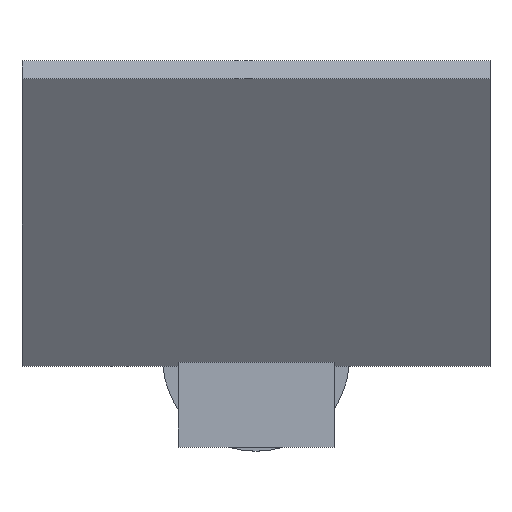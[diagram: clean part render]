
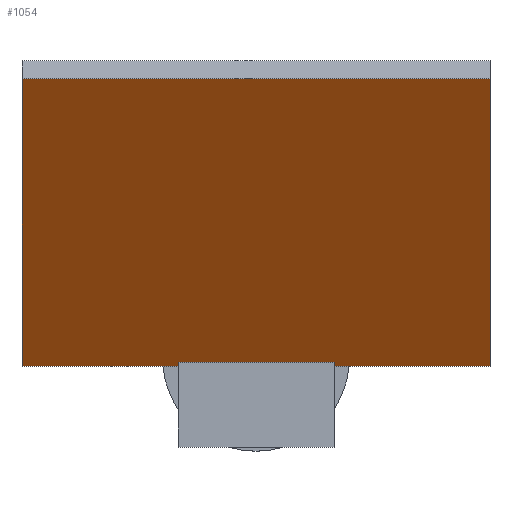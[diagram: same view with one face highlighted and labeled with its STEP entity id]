
A CAD part, top view. The second image highlights one B-rep face of the part: STEP entity #1054.
In plain terms, the highlighted planar face has unit normal (0, -0.574, 0.819).
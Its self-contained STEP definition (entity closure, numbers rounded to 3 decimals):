
#127 = PLANE('',#128);
#128 = AXIS2_PLACEMENT_3D('',#129,#130,#131);
#129 = CARTESIAN_POINT('',(-295.,-49.751,-8.));
#130 = DIRECTION('',(1.,0.,0.));
#131 = DIRECTION('',(0.,0.,1.));
#183 = PLANE('',#184);
#184 = AXIS2_PLACEMENT_3D('',#185,#186,#187);
#185 = CARTESIAN_POINT('',(-255.,-49.751,-8.));
#186 = DIRECTION('',(1.,0.,0.));
#187 = DIRECTION('',(0.,0.,1.));
#234 = VERTEX_POINT('',#235);
#235 = CARTESIAN_POINT('',(-295.,-28.012,29.115));
#249 = PLANE('',#250);
#250 = AXIS2_PLACEMENT_3D('',#251,#252,#253);
#251 = CARTESIAN_POINT('',(-295.,-49.751,29.115));
#252 = DIRECTION('',(0.,0.,1.));
#253 = DIRECTION('',(1.,0.,0.));
#361 = VERTEX_POINT('',#362);
#362 = CARTESIAN_POINT('',(-295.,-29.046,28.391));
#375 = PLANE('',#376);
#376 = AXIS2_PLACEMENT_3D('',#377,#378,#379);
#377 = CARTESIAN_POINT('',(-335.,-24.457,21.838));
#378 = DIRECTION('',(0.,0.819,0.574));
#379 = DIRECTION('',(0.,-0.574,0.819));
#386 = EDGE_CURVE('',#361,#234,#387,.T.);
#387 = SURFACE_CURVE('',#388,(#392,#398),.PCURVE_S1.);
#388 = LINE('',#389,#390);
#389 = CARTESIAN_POINT('',(-295.,-44.542,17.541));
#390 = VECTOR('',#391,1.);
#391 = DIRECTION('',(-0.,0.819,0.574));
#392 = PCURVE('',#127,#393);
#393 = DEFINITIONAL_REPRESENTATION('',(#394),#397);
#394 = B_SPLINE_CURVE_WITH_KNOTS('',1,(#395,#396),.UNSPECIFIED.,.F.,.F.,
  (2,2),(18.917,20.178),.PIECEWISE_BEZIER_KNOTS.);
#395 = CARTESIAN_POINT('',(36.391,-20.706));
#396 = CARTESIAN_POINT('',(37.115,-21.739));
#397 = ( GEOMETRIC_REPRESENTATION_CONTEXT(2) 
PARAMETRIC_REPRESENTATION_CONTEXT() REPRESENTATION_CONTEXT('2D SPACE',''
  ) );
#398 = PCURVE('',#399,#404);
#399 = PLANE('',#400);
#400 = AXIS2_PLACEMENT_3D('',#401,#402,#403);
#401 = CARTESIAN_POINT('',(-335.,-29.046,28.391));
#402 = DIRECTION('',(0.,-0.574,0.819));
#403 = DIRECTION('',(1.,0.,0.));
#404 = DEFINITIONAL_REPRESENTATION('',(#405),#408);
#405 = B_SPLINE_CURVE_WITH_KNOTS('',1,(#406,#407),.UNSPECIFIED.,.F.,.F.,
  (2,2),(18.917,20.178),.PIECEWISE_BEZIER_KNOTS.);
#406 = CARTESIAN_POINT('',(40.,0.));
#407 = CARTESIAN_POINT('',(40.,1.261));
#408 = ( GEOMETRIC_REPRESENTATION_CONTEXT(2) 
PARAMETRIC_REPRESENTATION_CONTEXT() REPRESENTATION_CONTEXT('2D SPACE',''
  ) );
#815 = VERTEX_POINT('',#816);
#816 = CARTESIAN_POINT('',(-255.,-28.012,29.115));
#885 = VERTEX_POINT('',#886);
#886 = CARTESIAN_POINT('',(-255.,-29.046,28.391));
#899 = PLANE('',#900);
#900 = AXIS2_PLACEMENT_3D('',#901,#902,#903);
#901 = CARTESIAN_POINT('',(-335.,-24.457,21.838));
#902 = DIRECTION('',(0.,0.819,0.574));
#903 = DIRECTION('',(0.,-0.574,0.819));
#910 = EDGE_CURVE('',#885,#815,#911,.T.);
#911 = SURFACE_CURVE('',#912,(#916,#922),.PCURVE_S1.);
#912 = LINE('',#913,#914);
#913 = CARTESIAN_POINT('',(-255.,-44.542,17.541));
#914 = VECTOR('',#915,1.);
#915 = DIRECTION('',(-0.,0.819,0.574));
#916 = PCURVE('',#183,#917);
#917 = DEFINITIONAL_REPRESENTATION('',(#918),#921);
#918 = B_SPLINE_CURVE_WITH_KNOTS('',1,(#919,#920),.UNSPECIFIED.,.F.,.F.,
  (2,2),(18.917,20.178),.PIECEWISE_BEZIER_KNOTS.);
#919 = CARTESIAN_POINT('',(36.391,-20.706));
#920 = CARTESIAN_POINT('',(37.115,-21.739));
#921 = ( GEOMETRIC_REPRESENTATION_CONTEXT(2) 
PARAMETRIC_REPRESENTATION_CONTEXT() REPRESENTATION_CONTEXT('2D SPACE',''
  ) );
#922 = PCURVE('',#399,#923);
#923 = DEFINITIONAL_REPRESENTATION('',(#924),#927);
#924 = B_SPLINE_CURVE_WITH_KNOTS('',1,(#925,#926),.UNSPECIFIED.,.F.,.F.,
  (2,2),(18.917,20.178),.PIECEWISE_BEZIER_KNOTS.);
#925 = CARTESIAN_POINT('',(80.,0.));
#926 = CARTESIAN_POINT('',(80.,1.261));
#927 = ( GEOMETRIC_REPRESENTATION_CONTEXT(2) 
PARAMETRIC_REPRESENTATION_CONTEXT() REPRESENTATION_CONTEXT('2D SPACE',''
  ) );
#1036 = EDGE_CURVE('',#815,#234,#1037,.T.);
#1037 = SURFACE_CURVE('',#1038,(#1042,#1048),.PCURVE_S1.);
#1038 = LINE('',#1039,#1040);
#1039 = CARTESIAN_POINT('',(-315.,-28.012,29.115));
#1040 = VECTOR('',#1041,1.);
#1041 = DIRECTION('',(-1.,0.,0.));
#1042 = PCURVE('',#249,#1043);
#1043 = DEFINITIONAL_REPRESENTATION('',(#1044),#1047);
#1044 = B_SPLINE_CURVE_WITH_KNOTS('',1,(#1045,#1046),.UNSPECIFIED.,.F.,
  .F.,(2,2),(-60.,-20.),.PIECEWISE_BEZIER_KNOTS.);
#1045 = CARTESIAN_POINT('',(40.,21.739));
#1046 = CARTESIAN_POINT('',(0.,21.739));
#1047 = ( GEOMETRIC_REPRESENTATION_CONTEXT(2) 
PARAMETRIC_REPRESENTATION_CONTEXT() REPRESENTATION_CONTEXT('2D SPACE',''
  ) );
#1048 = PCURVE('',#399,#1049);
#1049 = DEFINITIONAL_REPRESENTATION('',(#1050),#1053);
#1050 = B_SPLINE_CURVE_WITH_KNOTS('',1,(#1051,#1052),.UNSPECIFIED.,.F.,
  .F.,(2,2),(-60.,-20.),.PIECEWISE_BEZIER_KNOTS.);
#1051 = CARTESIAN_POINT('',(80.,1.261));
#1052 = CARTESIAN_POINT('',(40.,1.261));
#1053 = ( GEOMETRIC_REPRESENTATION_CONTEXT(2) 
PARAMETRIC_REPRESENTATION_CONTEXT() REPRESENTATION_CONTEXT('2D SPACE',''
  ) );
#1054 = ADVANCED_FACE('',(#1055),#399,.T.);
#1055 = FACE_BOUND('',#1056,.T.);
#1056 = EDGE_LOOP('',(#1057,#1087,#1115,#1136,#1137,#1138,#1139,#1162));
#1057 = ORIENTED_EDGE('',*,*,#1058,.F.);
#1058 = EDGE_CURVE('',#1059,#1061,#1063,.T.);
#1059 = VERTEX_POINT('',#1060);
#1060 = CARTESIAN_POINT('',(-335.,44.678,80.013));
#1061 = VERTEX_POINT('',#1062);
#1062 = CARTESIAN_POINT('',(-215.,44.678,80.013));
#1063 = SURFACE_CURVE('',#1064,(#1068,#1075),.PCURVE_S1.);
#1064 = LINE('',#1065,#1066);
#1065 = CARTESIAN_POINT('',(-335.,44.678,80.013));
#1066 = VECTOR('',#1067,1.);
#1067 = DIRECTION('',(1.,0.,0.));
#1068 = PCURVE('',#399,#1069);
#1069 = DEFINITIONAL_REPRESENTATION('',(#1070),#1074);
#1070 = LINE('',#1071,#1072);
#1071 = CARTESIAN_POINT('',(0.,90.));
#1072 = VECTOR('',#1073,1.);
#1073 = DIRECTION('',(1.,0.));
#1074 = ( GEOMETRIC_REPRESENTATION_CONTEXT(2) 
PARAMETRIC_REPRESENTATION_CONTEXT() REPRESENTATION_CONTEXT('2D SPACE',''
  ) );
#1075 = PCURVE('',#1076,#1081);
#1076 = PLANE('',#1077);
#1077 = AXIS2_PLACEMENT_3D('',#1078,#1079,#1080);
#1078 = CARTESIAN_POINT('',(-335.,49.267,73.46));
#1079 = DIRECTION('',(0.,0.819,0.574));
#1080 = DIRECTION('',(0.,-0.574,0.819));
#1081 = DEFINITIONAL_REPRESENTATION('',(#1082),#1086);
#1082 = LINE('',#1083,#1084);
#1083 = CARTESIAN_POINT('',(8.,0.));
#1084 = VECTOR('',#1085,1.);
#1085 = DIRECTION('',(0.,1.));
#1086 = ( GEOMETRIC_REPRESENTATION_CONTEXT(2) 
PARAMETRIC_REPRESENTATION_CONTEXT() REPRESENTATION_CONTEXT('2D SPACE',''
  ) );
#1087 = ORIENTED_EDGE('',*,*,#1088,.F.);
#1088 = EDGE_CURVE('',#1089,#1059,#1091,.T.);
#1089 = VERTEX_POINT('',#1090);
#1090 = CARTESIAN_POINT('',(-335.,-29.046,28.391));
#1091 = SURFACE_CURVE('',#1092,(#1096,#1103),.PCURVE_S1.);
#1092 = LINE('',#1093,#1094);
#1093 = CARTESIAN_POINT('',(-335.,-29.046,28.391));
#1094 = VECTOR('',#1095,1.);
#1095 = DIRECTION('',(0.,0.819,0.574));
#1096 = PCURVE('',#399,#1097);
#1097 = DEFINITIONAL_REPRESENTATION('',(#1098),#1102);
#1098 = LINE('',#1099,#1100);
#1099 = CARTESIAN_POINT('',(0.,0.));
#1100 = VECTOR('',#1101,1.);
#1101 = DIRECTION('',(0.,1.));
#1102 = ( GEOMETRIC_REPRESENTATION_CONTEXT(2) 
PARAMETRIC_REPRESENTATION_CONTEXT() REPRESENTATION_CONTEXT('2D SPACE',''
  ) );
#1103 = PCURVE('',#1104,#1109);
#1104 = PLANE('',#1105);
#1105 = AXIS2_PLACEMENT_3D('',#1106,#1107,#1108);
#1106 = CARTESIAN_POINT('',(-335.,-24.457,21.838));
#1107 = DIRECTION('',(1.,0.,0.));
#1108 = DIRECTION('',(0.,-0.574,0.819));
#1109 = DEFINITIONAL_REPRESENTATION('',(#1110),#1114);
#1110 = LINE('',#1111,#1112);
#1111 = CARTESIAN_POINT('',(8.,0.));
#1112 = VECTOR('',#1113,1.);
#1113 = DIRECTION('',(0.,-1.));
#1114 = ( GEOMETRIC_REPRESENTATION_CONTEXT(2) 
PARAMETRIC_REPRESENTATION_CONTEXT() REPRESENTATION_CONTEXT('2D SPACE',''
  ) );
#1115 = ORIENTED_EDGE('',*,*,#1116,.T.);
#1116 = EDGE_CURVE('',#1089,#361,#1117,.T.);
#1117 = SURFACE_CURVE('',#1118,(#1122,#1129),.PCURVE_S1.);
#1118 = LINE('',#1119,#1120);
#1119 = CARTESIAN_POINT('',(-335.,-29.046,28.391));
#1120 = VECTOR('',#1121,1.);
#1121 = DIRECTION('',(1.,0.,0.));
#1122 = PCURVE('',#399,#1123);
#1123 = DEFINITIONAL_REPRESENTATION('',(#1124),#1128);
#1124 = LINE('',#1125,#1126);
#1125 = CARTESIAN_POINT('',(0.,0.));
#1126 = VECTOR('',#1127,1.);
#1127 = DIRECTION('',(1.,0.));
#1128 = ( GEOMETRIC_REPRESENTATION_CONTEXT(2) 
PARAMETRIC_REPRESENTATION_CONTEXT() REPRESENTATION_CONTEXT('2D SPACE',''
  ) );
#1129 = PCURVE('',#375,#1130);
#1130 = DEFINITIONAL_REPRESENTATION('',(#1131),#1135);
#1131 = LINE('',#1132,#1133);
#1132 = CARTESIAN_POINT('',(8.,0.));
#1133 = VECTOR('',#1134,1.);
#1134 = DIRECTION('',(0.,1.));
#1135 = ( GEOMETRIC_REPRESENTATION_CONTEXT(2) 
PARAMETRIC_REPRESENTATION_CONTEXT() REPRESENTATION_CONTEXT('2D SPACE',''
  ) );
#1136 = ORIENTED_EDGE('',*,*,#386,.T.);
#1137 = ORIENTED_EDGE('',*,*,#1036,.F.);
#1138 = ORIENTED_EDGE('',*,*,#910,.F.);
#1139 = ORIENTED_EDGE('',*,*,#1140,.T.);
#1140 = EDGE_CURVE('',#885,#1141,#1143,.T.);
#1141 = VERTEX_POINT('',#1142);
#1142 = CARTESIAN_POINT('',(-215.,-29.046,28.391));
#1143 = SURFACE_CURVE('',#1144,(#1148,#1155),.PCURVE_S1.);
#1144 = LINE('',#1145,#1146);
#1145 = CARTESIAN_POINT('',(-335.,-29.046,28.391));
#1146 = VECTOR('',#1147,1.);
#1147 = DIRECTION('',(1.,0.,0.));
#1148 = PCURVE('',#399,#1149);
#1149 = DEFINITIONAL_REPRESENTATION('',(#1150),#1154);
#1150 = LINE('',#1151,#1152);
#1151 = CARTESIAN_POINT('',(0.,0.));
#1152 = VECTOR('',#1153,1.);
#1153 = DIRECTION('',(1.,0.));
#1154 = ( GEOMETRIC_REPRESENTATION_CONTEXT(2) 
PARAMETRIC_REPRESENTATION_CONTEXT() REPRESENTATION_CONTEXT('2D SPACE',''
  ) );
#1155 = PCURVE('',#899,#1156);
#1156 = DEFINITIONAL_REPRESENTATION('',(#1157),#1161);
#1157 = LINE('',#1158,#1159);
#1158 = CARTESIAN_POINT('',(8.,0.));
#1159 = VECTOR('',#1160,1.);
#1160 = DIRECTION('',(0.,1.));
#1161 = ( GEOMETRIC_REPRESENTATION_CONTEXT(2) 
PARAMETRIC_REPRESENTATION_CONTEXT() REPRESENTATION_CONTEXT('2D SPACE',''
  ) );
#1162 = ORIENTED_EDGE('',*,*,#1163,.T.);
#1163 = EDGE_CURVE('',#1141,#1061,#1164,.T.);
#1164 = SURFACE_CURVE('',#1165,(#1169,#1176),.PCURVE_S1.);
#1165 = LINE('',#1166,#1167);
#1166 = CARTESIAN_POINT('',(-215.,-29.046,28.391));
#1167 = VECTOR('',#1168,1.);
#1168 = DIRECTION('',(0.,0.819,0.574));
#1169 = PCURVE('',#399,#1170);
#1170 = DEFINITIONAL_REPRESENTATION('',(#1171),#1175);
#1171 = LINE('',#1172,#1173);
#1172 = CARTESIAN_POINT('',(120.,0.));
#1173 = VECTOR('',#1174,1.);
#1174 = DIRECTION('',(0.,1.));
#1175 = ( GEOMETRIC_REPRESENTATION_CONTEXT(2) 
PARAMETRIC_REPRESENTATION_CONTEXT() REPRESENTATION_CONTEXT('2D SPACE',''
  ) );
#1176 = PCURVE('',#1177,#1182);
#1177 = PLANE('',#1178);
#1178 = AXIS2_PLACEMENT_3D('',#1179,#1180,#1181);
#1179 = CARTESIAN_POINT('',(-215.,-24.457,21.838));
#1180 = DIRECTION('',(1.,0.,0.));
#1181 = DIRECTION('',(0.,-0.574,0.819));
#1182 = DEFINITIONAL_REPRESENTATION('',(#1183),#1187);
#1183 = LINE('',#1184,#1185);
#1184 = CARTESIAN_POINT('',(8.,0.));
#1185 = VECTOR('',#1186,1.);
#1186 = DIRECTION('',(0.,-1.));
#1187 = ( GEOMETRIC_REPRESENTATION_CONTEXT(2) 
PARAMETRIC_REPRESENTATION_CONTEXT() REPRESENTATION_CONTEXT('2D SPACE',''
  ) );
